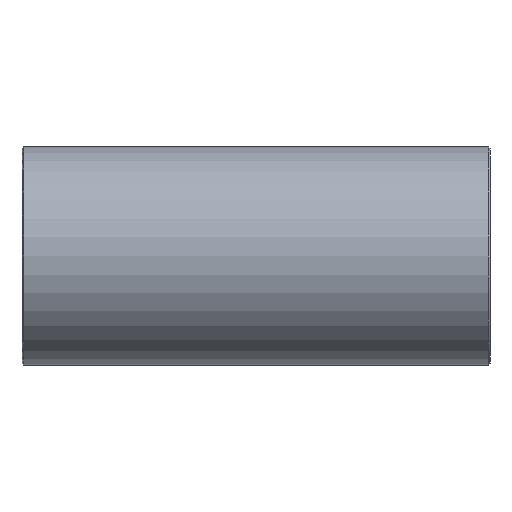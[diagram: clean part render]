
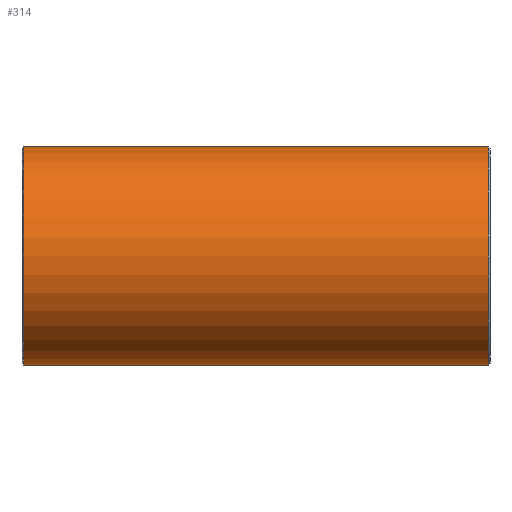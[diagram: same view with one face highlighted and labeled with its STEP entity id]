
A CAD part, front view. The second image highlights one B-rep face of the part: STEP entity #314.
In plain terms, the highlighted cylindrical face has radius 12.7 mm (diameter 25.4 mm), a full revolution.
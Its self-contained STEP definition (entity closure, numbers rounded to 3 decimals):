
#191=CARTESIAN_POINT('',(27.,12.7,0.));
#192=VERTEX_POINT('',#191);
#193=CARTESIAN_POINT('',(27.,0.0,0.0));
#194=DIRECTION('',(1.0,0.0,0.0));
#195=DIRECTION('',(0.0,-1.0,0.0));
#196=AXIS2_PLACEMENT_3D('',#193,#194,#195);
#197=CIRCLE('',#196,12.7);
#198=EDGE_CURVE('',#192,#192,#197,.T.);
#234=CARTESIAN_POINT('',(0.0,0.0,0.0));
#235=DIRECTION('',(1.0,0.0,0.0));
#236=DIRECTION('',(0.0,1.0,0.0));
#237=AXIS2_PLACEMENT_3D('',#234,#235,#236);
#238=CYLINDRICAL_SURFACE('',#237,12.7);
#239=CARTESIAN_POINT('',(-27.,12.7,0.));
#240=VERTEX_POINT('',#239);
#241=CARTESIAN_POINT('',(-27.,0.0,0.0));
#242=DIRECTION('',(-1.0,0.0,0.0));
#243=DIRECTION('',(0.0,-1.0,0.0));
#244=AXIS2_PLACEMENT_3D('',#241,#242,#243);
#245=CIRCLE('',#244,12.7);
#246=EDGE_CURVE('',#240,#240,#245,.T.);
#247=ORIENTED_EDGE('',*,*,#246,.F.);
#248=EDGE_LOOP('',(#247));
#249=FACE_OUTER_BOUND('',#248,.T.);
#250=CARTESIAN_POINT('',(0.,11.267,5.861));
#251=VERTEX_POINT('',#250);
#252=CARTESIAN_POINT('',(0.,11.266,5.861));
#253=CARTESIAN_POINT('',(0.397,11.267,5.861));
#254=CARTESIAN_POINT('',(0.93,11.287,5.823));
#255=CARTESIAN_POINT('',(1.704,11.353,5.693));
#256=CARTESIAN_POINT('',(2.337,11.429,5.539));
#257=CARTESIAN_POINT('',(3.3,11.588,5.204));
#258=CARTESIAN_POINT('',(4.133,11.777,4.766));
#259=CARTESIAN_POINT('',(4.719,11.936,4.341));
#260=CARTESIAN_POINT('',(4.997,12.015,4.117));
#261=CARTESIAN_POINT('',(5.219,12.08,3.921));
#262=CARTESIAN_POINT('',(5.667,12.218,3.482));
#263=CARTESIAN_POINT('',(6.125,12.373,2.902));
#264=CARTESIAN_POINT('',(6.565,12.53,2.113));
#265=CARTESIAN_POINT('',(6.858,12.64,1.334));
#266=CARTESIAN_POINT('',(7.021,12.702,0.456));
#267=CARTESIAN_POINT('',(7.023,12.703,-0.361));
#268=CARTESIAN_POINT('',(6.929,12.667,-0.953));
#269=CARTESIAN_POINT('',(6.783,12.612,-1.531));
#270=CARTESIAN_POINT('',(6.549,12.524,-2.161));
#271=CARTESIAN_POINT('',(6.127,12.373,-2.889));
#272=CARTESIAN_POINT('',(5.696,12.229,-3.436));
#273=CARTESIAN_POINT('',(5.267,12.094,-3.884));
#274=CARTESIAN_POINT('',(4.728,11.935,-4.353));
#275=CARTESIAN_POINT('',(3.981,11.741,-4.852));
#276=CARTESIAN_POINT('',(3.31,11.597,-5.178));
#277=CARTESIAN_POINT('',(2.678,11.484,-5.424));
#278=CARTESIAN_POINT('',(2.018,11.384,-5.631));
#279=CARTESIAN_POINT('',(1.246,11.308,-5.781));
#280=CARTESIAN_POINT('',(0.367,11.264,-5.866));
#281=CARTESIAN_POINT('',(-0.351,11.263,-5.867));
#282=CARTESIAN_POINT('',(-1.232,11.307,-5.783));
#283=CARTESIAN_POINT('',(-2.09,11.391,-5.618));
#284=CARTESIAN_POINT('',(-2.993,11.534,-5.32));
#285=CARTESIAN_POINT('',(-3.6,11.659,-5.037));
#286=CARTESIAN_POINT('',(-4.175,11.791,-4.722));
#287=CARTESIAN_POINT('',(-4.785,11.95,-4.315));
#288=CARTESIAN_POINT('',(-5.347,12.118,-3.811));
#289=CARTESIAN_POINT('',(-5.763,12.252,-3.352));
#290=CARTESIAN_POINT('',(-6.076,12.357,-2.948));
#291=CARTESIAN_POINT('',(-6.5,12.506,-2.264));
#292=CARTESIAN_POINT('',(-6.784,12.612,-1.568));
#293=CARTESIAN_POINT('',(-7.007,12.697,-0.601));
#294=CARTESIAN_POINT('',(-7.04,12.71,0.113));
#295=CARTESIAN_POINT('',(-6.948,12.674,0.846));
#296=CARTESIAN_POINT('',(-6.822,12.626,1.429));
#297=CARTESIAN_POINT('',(-6.543,12.522,2.173));
#298=CARTESIAN_POINT('',(-6.087,12.359,2.957));
#299=CARTESIAN_POINT('',(-5.546,12.179,3.617));
#300=CARTESIAN_POINT('',(-4.965,12.003,4.157));
#301=CARTESIAN_POINT('',(-4.198,11.792,4.731));
#302=CARTESIAN_POINT('',(-3.09,11.539,5.316));
#303=CARTESIAN_POINT('',(-1.602,11.321,5.758));
#304=CARTESIAN_POINT('',(-0.529,11.266,5.862));
#305=CARTESIAN_POINT('',(0.,11.266,5.861));
#306=B_SPLINE_CURVE_WITH_KNOTS('',3,(#252,#253,#254,#255,#256,#257,#258,#259,#260,#261,#262,#263,#264,#265,#266,#267,#268,#269,#270,#271,#272,#273,#274,#275,#276,#277,#278,#279,#280,#281,#282,#283,#284,#285,#286,#287,#288,#289,#290,#291,#292,#293,#294,#295,#296,#297,#298,#299,#300,#301,#302,#303,#304,#305),.UNSPECIFIED.,.T.,.U.,(4,1,1,1,1,1,1,1,1,1,1,1,1,1,1,1,1,1,1,1,1,1,1,1,1,1,1,1,1,1,1,1,1,1,1,1,1,1,1,1,1,1,1,1,1,1,1,1,1,1,1,4),(-2.747,-2.674,-2.649,-2.6,-2.551,-2.453,-2.416,-2.404,-2.379,-2.355,-2.273,-2.224,-2.159,-2.093,-2.028,-1.979,-1.962,-1.897,-1.832,-1.783,-1.75,-1.701,-1.635,-1.57,-1.554,-1.505,-1.439,-1.406,-1.341,-1.308,-1.243,-1.177,-1.128,-1.112,-1.047,-0.981,-0.957,-0.916,-0.872,-0.785,-0.752,-0.654,-0.63,-0.589,-0.523,-0.458,-0.392,-0.343,-0.294,-0.196,-0.098,0.0),.UNSPECIFIED.);
#307=EDGE_CURVE('',#251,#251,#306,.T.);
#308=ORIENTED_EDGE('',*,*,#307,.F.);
#309=EDGE_LOOP('',(#308));
#310=FACE_BOUND('',#309,.T.);
#311=ORIENTED_EDGE('',*,*,#198,.F.);
#312=EDGE_LOOP('',(#311));
#313=FACE_BOUND('',#312,.T.);
#314=ADVANCED_FACE('',(#249,#310,#313),#238,.T.);
